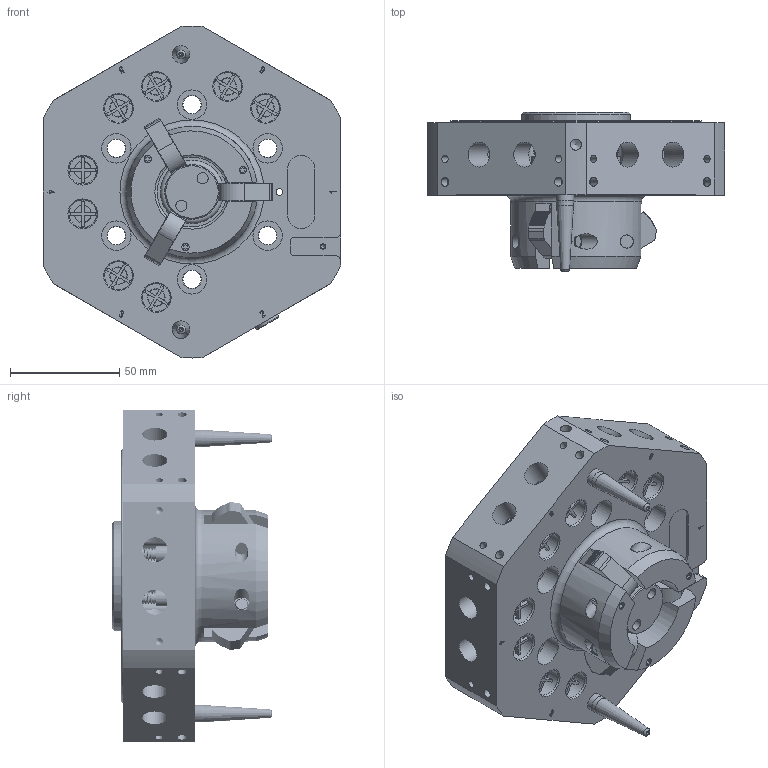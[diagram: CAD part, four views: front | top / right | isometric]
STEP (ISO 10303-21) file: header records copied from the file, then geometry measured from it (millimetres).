
FILE_DESCRIPTION (( 'STEP AP214' ), '1' );
FILE_NAME ('1506-D45A REV01.STEP', '2019-03-05T12:43:51', ( 'Any Employee' ), ( 'Applied Robotics Inc.' ), 'SwSTEP 2.0', 'SolidWorks 2019', '' );
FILE_SCHEMA (( 'AUTOMOTIVE_DESIGN' ));
Length unit declared in the file: millimetre
Products named in the file (31): 1506-C47N; 49628_90967A120; 86555-p1021; 1502-C61N; 1506-C57N; 48427; 48414; 48030; 95505-P1087; 0601-P58N; 1506-C55N; 1506-C48N; 87525-P1007; 1506-D45A REV01; 97500-B1028; 1506-C58N; 48425; 48008; 1507-P19N; 97501-P1084; 1506-D46N; 91502-P1060; 97501-P1047; 1506-C53N; 1601-D25A; 96510-B1092; 1507-P01N; 89503-P1052; 87515-P2047; 48012; 1506-D56A
Assembly tree (94 placements, depth 3):
  1506-D45A REV01
    1601-D25A
      1506-D46N
      1506-C47N
      1506-C48N
      1506-C53N
      1502-C61N  x3
      97500-B1028  x3
      96510-B1092  x2
      48427  x5
      48425  x3
      89503-P1052  x9
      48030  x2
      1507-P19N
      48012  x6
      0601-P58N
      91502-P1060
      49628_90967A120
      87525-P1007
    1506-D56A
      1506-C57N
      1506-C58N
      1507-P01N  x2
      48414  x2
      48012  x4
      48008  x2
      87515-P2047  x6
      95505-P1087  x6
      97501-P1084  x2
    1506-C55N  x8
    97501-P1047  x8
    86555-p1021  x8
Bounding box: 136 x 73.02 x 152 mm (x, y, z)
Volume: 515499.5 mm3; surface area: 165827.6 mm2
Topology: 92 solids, 92 shells, 2008 faces, 4689 edges, 3062 vertices
Faces by surface type: plane 1067, cylinder 464, bspline 207, cone 159, torus 111
Full cylindrical faces by diameter (mm): 0.98 x6, 1 x2, 1.15 x6, 1.17 x6, 1.37 x12, 1.5 x2, 1.68 x6, 1.75 x6, 1.81 x6, 1.96 x6, 2.05 x3, 2.4 x2, 2.5 x21, 2.75 x2, 3 x24, 3.05 x2, 3.075 x2, 3.3 x18, 3.5 x10, 4 x8, 4.062 x10, 4.2 x2, 4.5 x10, 5 x6, 5.105 x2, 5.25 x2, 5.33 x8, 5.5 x12, 6 x17, 6.022 x9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
Entity records: 52156 total; most frequent: CARTESIAN_POINT 24283, ORIENTED_EDGE 4932, DIRECTION 4901, EDGE_CURVE 2466, EDGE_LOOP 1885, VERTEX_POINT 1813, AXIS2_PLACEMENT_3D 1807, FACE_OUTER_BOUND 1478
